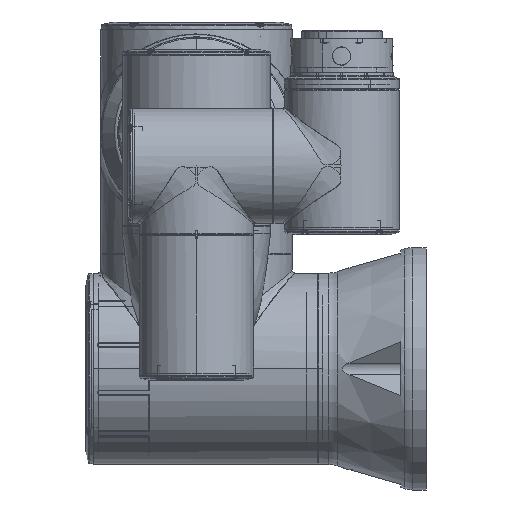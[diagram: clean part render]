
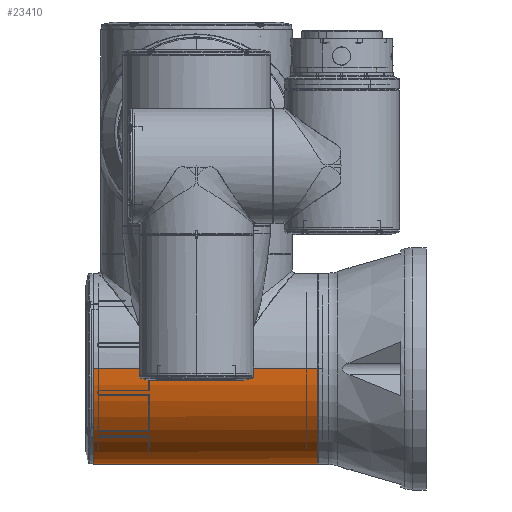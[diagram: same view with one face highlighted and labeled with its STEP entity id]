
A CAD part, left-side view. The second image highlights one B-rep face of the part: STEP entity #23410.
In plain terms, the highlighted cylindrical face has radius 75 mm (diameter 150 mm), a partial arc.
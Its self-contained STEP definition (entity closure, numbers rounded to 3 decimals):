
#912 = DIRECTION ( 'NONE',  ( 0., 1., 0. ) ) ;
#1303 = LINE ( 'NONE', #32511, #114077 ) ;
#2892 = CARTESIAN_POINT ( 'NONE',  ( 77.287, 35.729, 118.616 ) ) ;
#4251 = ORIENTED_EDGE ( 'NONE', *, *, #21524, .T. ) ;
#4756 = ORIENTED_EDGE ( 'NONE', *, *, #18885, .T. ) ;
#5067 = CARTESIAN_POINT ( 'NONE',  ( 77.287, 211.629, 118.616 ) ) ;
#8717 = DIRECTION ( 'NONE',  ( 0., 0., 1. ) ) ;
#9233 = DIRECTION ( 'NONE',  ( 0., 1., 0. ) ) ;
#16667 = VECTOR ( 'NONE', #46255, 1000. ) ;
#17660 = CARTESIAN_POINT ( 'NONE',  ( 76.537, 208.281, 193.612 ) ) ;
#18885 = EDGE_CURVE ( 'NONE', #49386, #55812, #125541, .T. ) ;
#19732 = CARTESIAN_POINT ( 'NONE',  ( 77.287, 36.129, 118.616 ) ) ;
#19766 = AXIS2_PLACEMENT_3D ( 'NONE', #34185, #148239, #8717 ) ;
#20236 = CARTESIAN_POINT ( 'NONE',  ( 152.287, 35.729, 118.616 ) ) ;
#20429 = EDGE_CURVE ( 'NONE', #142205, #49386, #46040, .T. ) ;
#21337 = CARTESIAN_POINT ( 'NONE',  ( 76.537, 42.169, 193.612 ) ) ;
#21524 = EDGE_CURVE ( 'NONE', #142675, #61424, #103177, .T. ) ;
#22029 = VECTOR ( 'NONE', #55805, 1000. ) ;
#22163 = EDGE_CURVE ( 'NONE', #142205, #104230, #1303, .T. ) ;
#23410 = ADVANCED_FACE ( 'NONE', ( #81667 ), #111937, .T. ) ;
#24886 = AXIS2_PLACEMENT_3D ( 'NONE', #5067, #118092, #85067 ) ;
#27186 = EDGE_CURVE ( 'NONE', #31844, #61424, #30921, .T. ) ;
#27392 = ORIENTED_EDGE ( 'NONE', *, *, #89458, .F. ) ;
#30037 = EDGE_CURVE ( 'NONE', #104230, #107995, #105641, .T. ) ;
#30127 = CARTESIAN_POINT ( 'NONE',  ( 77.68, 207.811, 193.615 ) ) ;
#30921 = LINE ( 'NONE', #21337, #22029 ) ;
#31311 = AXIS2_PLACEMENT_3D ( 'NONE', #19732, #9233, #99682 ) ;
#31844 = VERTEX_POINT ( 'NONE', #126374 ) ;
#31979 = VECTOR ( 'NONE', #136013, 1000. ) ;
#32511 = CARTESIAN_POINT ( 'NONE',  ( 2.287, 35.729, 118.616 ) ) ;
#34185 = CARTESIAN_POINT ( 'NONE',  ( 77.287, 211.629, 118.616 ) ) ;
#40147 = CARTESIAN_POINT ( 'NONE',  ( 77.191, 207.729, 193.616 ) ) ;
#40573 = VERTEX_POINT ( 'NONE', #76130 ) ;
#46040 = CIRCLE ( 'NONE', #31311, 75. ) ;
#46255 = DIRECTION ( 'NONE',  ( 0., 1., 0. ) ) ;
#46537 = CARTESIAN_POINT ( 'NONE',  ( 2.287, 36.129, 118.616 ) ) ;
#49386 = VERTEX_POINT ( 'NONE', #77456 ) ;
#52615 = CARTESIAN_POINT ( 'NONE',  ( 77.943, 208.102, 193.613 ) ) ;
#54371 = CARTESIAN_POINT ( 'NONE',  ( 152.287, 35.729, 118.616 ) ) ;
#55061 = CARTESIAN_POINT ( 'NONE',  ( 2.287, 35.729, 118.616 ) ) ;
#55805 = DIRECTION ( 'NONE',  ( 0., -1., 0. ) ) ;
#55812 = VERTEX_POINT ( 'NONE', #67382 ) ;
#60620 = ORIENTED_EDGE ( 'NONE', *, *, #81127, .F. ) ;
#61424 = VERTEX_POINT ( 'NONE', #134931 ) ;
#63106 = CARTESIAN_POINT ( 'NONE',  ( 76.909, 207.824, 193.615 ) ) ;
#66586 = DIRECTION ( 'NONE',  ( 0., 1., 0. ) ) ;
#67382 = CARTESIAN_POINT ( 'NONE',  ( 152.287, 116.729, 118.616 ) ) ;
#69192 = CARTESIAN_POINT ( 'NONE',  ( 152.287, 211.629, 118.616 ) ) ;
#74020 = CARTESIAN_POINT ( 'NONE',  ( 78.037, 208.479, 193.612 ) ) ;
#74846 = LINE ( 'NONE', #54371, #31979 ) ;
#75250 = VECTOR ( 'NONE', #66586, 1000. ) ;
#76130 = CARTESIAN_POINT ( 'NONE',  ( 78.037, 211.629, 193.612 ) ) ;
#77456 = CARTESIAN_POINT ( 'NONE',  ( 152.287, 36.129, 118.616 ) ) ;
#77465 = ORIENTED_EDGE ( 'NONE', *, *, #88556, .F. ) ;
#81127 = EDGE_CURVE ( 'NONE', #107995, #31844, #92714, .T. ) ;
#81200 = AXIS2_PLACEMENT_3D ( 'NONE', #2892, #912, #116931 ) ;
#81667 = FACE_OUTER_BOUND ( 'NONE', #119805, .T. ) ;
#83364 = ORIENTED_EDGE ( 'NONE', *, *, #30037, .F. ) ;
#85067 = DIRECTION ( 'NONE',  ( 0., 0., 1. ) ) ;
#86112 = CARTESIAN_POINT ( 'NONE',  ( 76.619, 208.087, 193.613 ) ) ;
#86137 = ORIENTED_EDGE ( 'NONE', *, *, #27186, .F. ) ;
#87075 = ORIENTED_EDGE ( 'NONE', *, *, #20429, .T. ) ;
#87097 = CARTESIAN_POINT ( 'NONE',  ( 78.037, 208.479, 193.612 ) ) ;
#88556 = EDGE_CURVE ( 'NONE', #40573, #140087, #109867, .T. ) ;
#88820 = CARTESIAN_POINT ( 'NONE',  ( 2.287, 116.729, 118.616 ) ) ;
#89458 = EDGE_CURVE ( 'NONE', #142675, #40573, #132983, .T. ) ;
#92714 = CIRCLE ( 'NONE', #19766, 75. ) ;
#97598 = CARTESIAN_POINT ( 'NONE',  ( 76.537, 208.479, 193.612 ) ) ;
#98576 = CARTESIAN_POINT ( 'NONE',  ( 78.037, 208.38, 193.612 ) ) ;
#99082 = CARTESIAN_POINT ( 'NONE',  ( 77.484, 207.73, 193.616 ) ) ;
#99682 = DIRECTION ( 'NONE',  ( -1., 0., 0. ) ) ;
#103177 = B_SPLINE_CURVE_WITH_KNOTS ( 'NONE', 3,
 ( #87097, #98576, #108623, #52615, #110083, #30127, #99082, #40147, #131757, #63106, #143203, #86112, #17660, #97598 ),
 .UNSPECIFIED., .F., .F.,
 ( 4, 2, 2, 2, 2, 2, 4 ),
 ( 0., 0., 0.001, 0.001, 0.001, 0.002, 0.002 ),
 .UNSPECIFIED. ) ;
#103567 = CARTESIAN_POINT ( 'NONE',  ( 2.287, 211.629, 118.616 ) ) ;
#104230 = VERTEX_POINT ( 'NONE', #88820 ) ;
#105641 = LINE ( 'NONE', #55061, #75250 ) ;
#106527 = ORIENTED_EDGE ( 'NONE', *, *, #22163, .F. ) ;
#107995 = VERTEX_POINT ( 'NONE', #103567 ) ;
#108623 = CARTESIAN_POINT ( 'NONE',  ( 78.018, 208.283, 193.612 ) ) ;
#108654 = EDGE_CURVE ( 'NONE', #55812, #140087, #74846, .T. ) ;
#109867 = CIRCLE ( 'NONE', #24886, 75. ) ;
#110083 = CARTESIAN_POINT ( 'NONE',  ( 77.887, 208.018, 193.613 ) ) ;
#111937 = CYLINDRICAL_SURFACE ( 'NONE', #81200, 75. ) ;
#113311 = ORIENTED_EDGE ( 'NONE', *, *, #108654, .T. ) ;
#114077 = VECTOR ( 'NONE', #125067, 1000. ) ;
#114763 = CARTESIAN_POINT ( 'NONE',  ( 78.037, 42.169, 193.612 ) ) ;
#116931 = DIRECTION ( 'NONE',  ( 1., 0., 0. ) ) ;
#118092 = DIRECTION ( 'NONE',  ( 0., 1., 0. ) ) ;
#119805 = EDGE_LOOP ( 'NONE', ( #106527, #87075, #4756, #113311, #77465, #27392, #4251, #86137, #60620, #83364 ) ) ;
#125067 = DIRECTION ( 'NONE',  ( 0., 1., 0. ) ) ;
#125541 = LINE ( 'NONE', #20236, #141585 ) ;
#126374 = CARTESIAN_POINT ( 'NONE',  ( 76.537, 211.629, 193.612 ) ) ;
#131757 = CARTESIAN_POINT ( 'NONE',  ( 77.091, 207.749, 193.615 ) ) ;
#132983 = LINE ( 'NONE', #114763, #16667 ) ;
#134931 = CARTESIAN_POINT ( 'NONE',  ( 76.537, 208.479, 193.612 ) ) ;
#136013 = DIRECTION ( 'NONE',  ( 0., 1., 0. ) ) ;
#140087 = VERTEX_POINT ( 'NONE', #69192 ) ;
#141585 = VECTOR ( 'NONE', #146773, 1000. ) ;
#142205 = VERTEX_POINT ( 'NONE', #46537 ) ;
#142675 = VERTEX_POINT ( 'NONE', #74020 ) ;
#143203 = CARTESIAN_POINT ( 'NONE',  ( 76.826, 207.88, 193.614 ) ) ;
#146773 = DIRECTION ( 'NONE',  ( 0., 1., 0. ) ) ;
#148239 = DIRECTION ( 'NONE',  ( 0., 1., 0. ) ) ;
